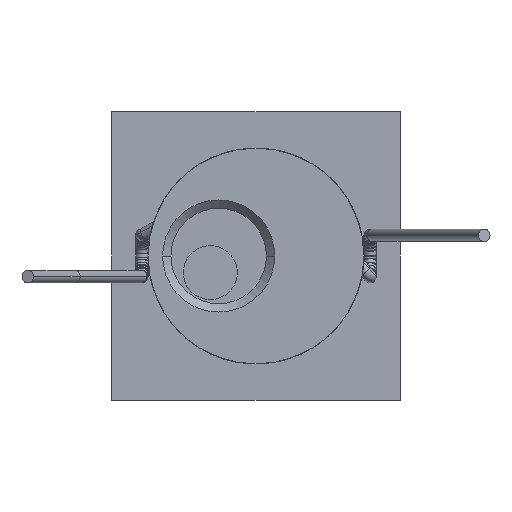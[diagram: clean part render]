
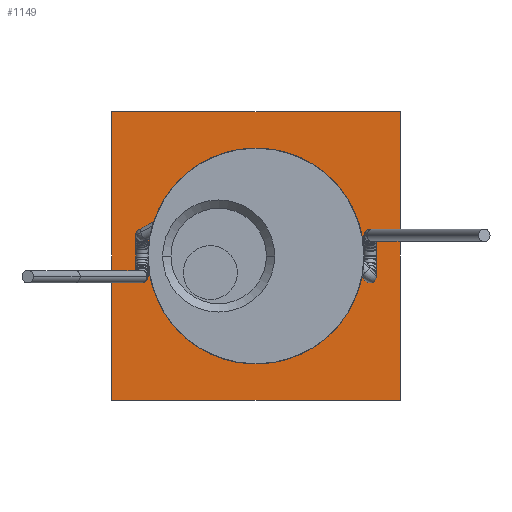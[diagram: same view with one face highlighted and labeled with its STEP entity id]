
A CAD part, front view. The second image highlights one B-rep face of the part: STEP entity #1149.
In plain terms, the highlighted planar face has unit normal (0, -1, 0).
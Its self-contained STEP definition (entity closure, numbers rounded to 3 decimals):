
#871=CARTESIAN_POINT('',(0.,31.,0.));
#872=DIRECTION('',(0.,1.,0.));
#873=DIRECTION('',(0.962,0.,-0.275));
#874=AXIS2_PLACEMENT_3D('',#871,#872,#873);
#876=DIRECTION('',(0.,0.,-1.));
#877=VECTOR('',#876,7.141);
#878=CARTESIAN_POINT('',(12.5,31.,3.571));
#879=LINE('',#878,#877);
#880=CARTESIAN_POINT('',(0.,31.,0.));
#881=DIRECTION('',(0.,-1.,0.));
#882=DIRECTION('',(0.962,0.,0.275));
#883=AXIS2_PLACEMENT_3D('',#880,#881,#882);
#885=DIRECTION('',(0.,0.,1.));
#886=VECTOR('',#885,7.141);
#887=CARTESIAN_POINT('',(-12.5,31.,-3.571));
#888=LINE('',#887,#886);
#889=DIRECTION('',(0.,0.,-1.));
#890=VECTOR('',#889,34.8);
#891=CARTESIAN_POINT('',(17.4,31.,17.4));
#892=LINE('',#891,#890);
#893=DIRECTION('',(-1.,0.,0.));
#894=VECTOR('',#893,34.8);
#895=CARTESIAN_POINT('',(17.4,31.,-17.4));
#896=LINE('',#895,#894);
#897=DIRECTION('',(0.,0.,1.));
#898=VECTOR('',#897,34.8);
#899=CARTESIAN_POINT('',(-17.4,31.,-17.4));
#900=LINE('',#899,#898);
#901=DIRECTION('',(1.,0.,0.));
#902=VECTOR('',#901,34.8);
#903=CARTESIAN_POINT('',(-17.4,31.,17.4));
#904=LINE('',#903,#902);
#1014=CARTESIAN_POINT('',(-12.5,31.,-3.571));
#1015=CARTESIAN_POINT('',(-12.5,31.,3.571));
#1016=VERTEX_POINT('',#1014);
#1017=VERTEX_POINT('',#1015);
#1018=CARTESIAN_POINT('',(12.5,31.,3.571));
#1019=CARTESIAN_POINT('',(12.5,31.,-3.571));
#1020=VERTEX_POINT('',#1018);
#1021=VERTEX_POINT('',#1019);
#1022=CARTESIAN_POINT('',(17.4,31.,17.4));
#1023=CARTESIAN_POINT('',(17.4,31.,-17.4));
#1024=VERTEX_POINT('',#1022);
#1025=VERTEX_POINT('',#1023);
#1026=CARTESIAN_POINT('',(-17.4,31.,-17.4));
#1027=VERTEX_POINT('',#1026);
#1028=CARTESIAN_POINT('',(-17.4,31.,17.4));
#1029=VERTEX_POINT('',#1028);
#1127=CARTESIAN_POINT('',(0.,31.,0.));
#1128=DIRECTION('',(0.,-1.,0.));
#1129=DIRECTION('',(-1.,0.,0.));
#1130=AXIS2_PLACEMENT_3D('',#1127,#1128,#1129);
#1131=PLANE('',#1130);
#1133=ORIENTED_EDGE('',*,*,#1132,.T.);
#1135=ORIENTED_EDGE('',*,*,#1134,.T.);
#1137=ORIENTED_EDGE('',*,*,#1136,.T.);
#1139=ORIENTED_EDGE('',*,*,#1138,.T.);
#1140=EDGE_LOOP('',(#1133,#1135,#1137,#1139));
#1141=FACE_OUTER_BOUND('',#1140,.F.);
#1143=ORIENTED_EDGE('',*,*,#1142,.F.);
#1144=ORIENTED_EDGE('',*,*,#1120,.F.);
#1145=ORIENTED_EDGE('',*,*,#1069,.T.);
#1146=ORIENTED_EDGE('',*,*,#1087,.F.);
#1147=EDGE_LOOP('',(#1143,#1144,#1145,#1146));
#1148=FACE_BOUND('',#1147,.F.);
#1149=ADVANCED_FACE('',(#1141,#1148),#1131,.T.);
#875=CIRCLE('',#874,13.);
#884=CIRCLE('',#883,13.);
#1069=EDGE_CURVE('',#1020,#1017,#884,.T.);
#1087=EDGE_CURVE('',#1016,#1017,#888,.T.);
#1120=EDGE_CURVE('',#1020,#1021,#879,.T.);
#1132=EDGE_CURVE('',#1024,#1025,#892,.T.);
#1134=EDGE_CURVE('',#1025,#1027,#896,.T.);
#1136=EDGE_CURVE('',#1027,#1029,#900,.T.);
#1138=EDGE_CURVE('',#1029,#1024,#904,.T.);
#1142=EDGE_CURVE('',#1021,#1016,#875,.T.);
